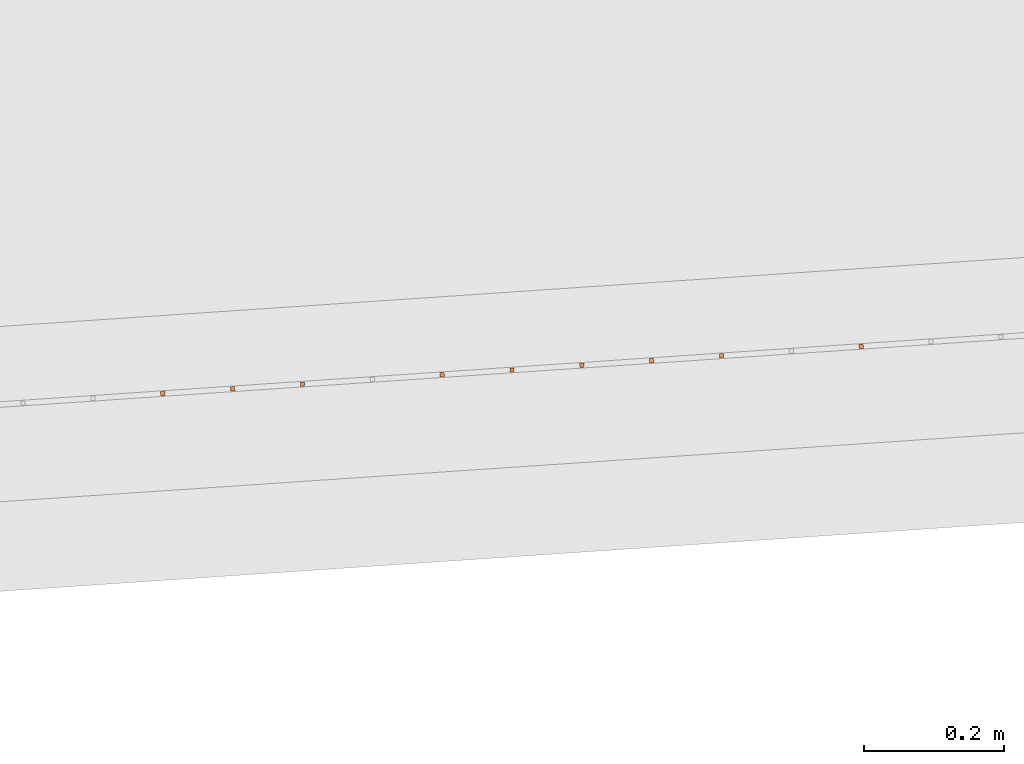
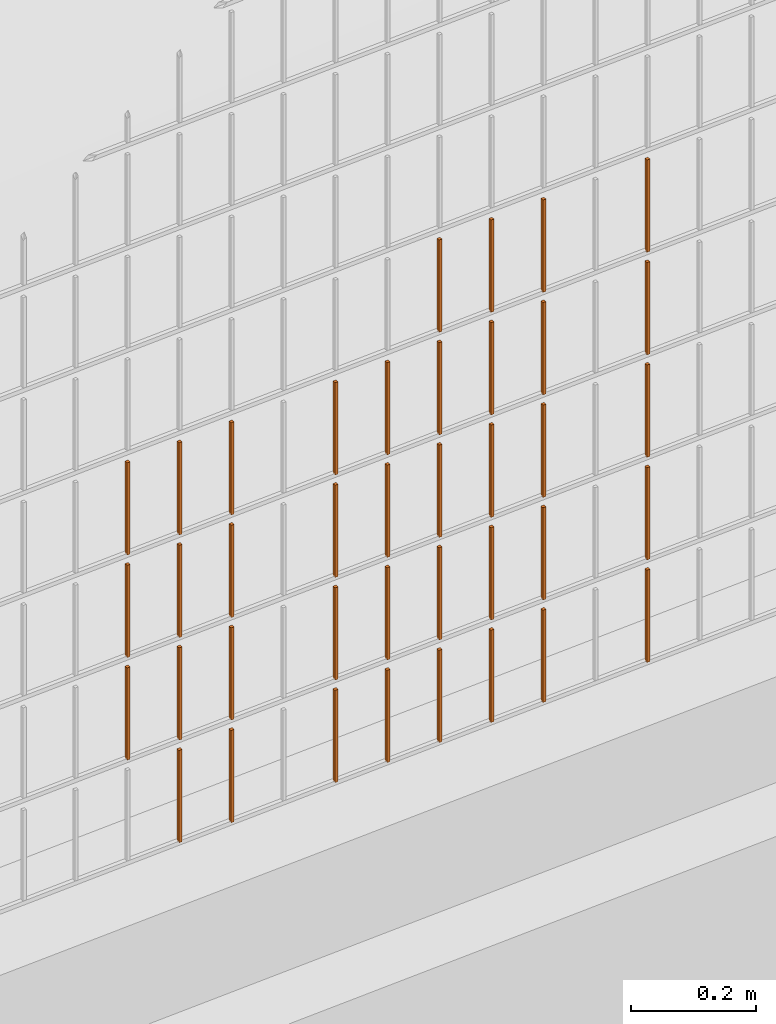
# One storey, part 190 of 1809: 39 proxies, 1 element without a shape of its own.
"""IFC2X3 building model written with IfcOpenShell, lengths in millimetres."""

from ifc_helpers import new_model, entity, si_unit, converted_unit, derived_unit, money_unit, direction, frame, origin_with_axes, place, context, subcontext, project, spatial, faceted_brep, source, transform, mapped, material, type_object, element, aggregate, save


model = new_model("IFC2X3")

# Units and contexts
model_context = context("Model", 3, precision=0.01, world=origin_with_axes(), true_north=direction((0.0, 1.0)))
body_context = subcontext(model_context, "Body", "Model", "MODEL_VIEW")
ifc_project = project(units=[si_unit("LENGTHUNIT", "METRE", prefix="MILLI"), si_unit("AREAUNIT", "SQUARE_METRE"), si_unit("VOLUMEUNIT", "CUBIC_METRE"), converted_unit("PLANEANGLEUNIT", "DEGREE", entity("IfcPlaneAngleMeasure", 0.0174532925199), si_unit("PLANEANGLEUNIT", "RADIAN"), dimensions=[0, 0, 0, 0, 0, 0, 0]), si_unit("SOLIDANGLEUNIT", "STERADIAN"), money_unit("EUR"), converted_unit("TIMEUNIT", "Year", entity("IfcTimeMeasure", 31556926.0), si_unit("TIMEUNIT", "SECOND"), dimensions=[0, 0, 1, 0, 0, 0, 0]), si_unit("MASSUNIT", "GRAM", prefix="KILO"), si_unit("THERMODYNAMICTEMPERATUREUNIT", "DEGREE_CELSIUS"), si_unit("LUMINOUSINTENSITYUNIT", "LUMEN"), si_unit("ENERGYUNIT", "JOULE", prefix="MEGA"), derived_unit("THERMALCONDUCTANCEUNIT", [(si_unit("POWERUNIT", "WATT"), 1), (si_unit("LENGTHUNIT", "METRE"), -1), (si_unit("THERMODYNAMICTEMPERATUREUNIT", "KELVIN"), -1)]), derived_unit("SPECIFICHEATCAPACITYUNIT", [(si_unit("ENERGYUNIT", "JOULE"), 1), (si_unit("MASSUNIT", "GRAM", prefix="KILO"), -1), (si_unit("THERMODYNAMICTEMPERATUREUNIT", "KELVIN"), -1)]), derived_unit("MASSDENSITYUNIT", [(si_unit("MASSUNIT", "GRAM", prefix="KILO"), 1), (si_unit("VOLUMEUNIT", "CUBIC_METRE"), -1)])], contexts=[model_context])

# Site, building, storey
site_placement = place(None, origin_with_axes())
site = spatial("IfcSite", under=ifc_project, at=site_placement, Name="Politse- ja Piirivalveameti ning Päästeameti ühishoone", CompositionType="ELEMENT")
building_placement = place(site_placement, origin_with_axes())
building = spatial("IfcBuilding", under=site, at=building_placement, Name="Politse- ja Piirivalveameti ning Päästeameti ühishoone", CompositionType="ELEMENT")
storey_placement = place(building_placement, origin_with_axes())
storey = spatial("IfcBuildingStorey", under=building, at=storey_placement, Name="Esimene korrus", CompositionType="ELEMENT", Elevation=0.0)

# Proxies
building_element_proxy_type_1 = type_object("IfcBuildingElementProxyType", Name="Railing Type", PredefinedType="NOTDEFINED")
proxy_1_placement = place(storey_placement, frame((89252.001212, -29183.4766571, 203.661247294), z_axis=(0.0, 0.0, 1.0), x_axis=(1.0, 0.0, 0.0)))
proxy_1 = element("IfcBuildingElementProxy", 1, at=proxy_1_placement, inside=storey, type_object=building_element_proxy_type_1, Name="PIIRDEAED")
ifc_material = material(Name="ET-03_Raud")
building_element_proxy_type_2 = type_object("IfcBuildingElementProxyType", Name="IfcBuildingElementProxy", PredefinedType="NOTDEFINED")
shared_shape_1 = source(origin_with_axes(), body_context, "Body", "Brep", [
    faceted_brep([(3.0, 3.0, -0.000752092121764), (-3.0, 3.0, -0.000752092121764), (-3.0, 3.0, 179.99926046), (3.0, 3.0, 179.99926046), (3.0, -3.0, 0.000752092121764), (-3.0, -3.0, 0.000752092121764), (-3.0, -3.0, 180.000764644), (3.0, -3.0, 180.000764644)], [[[0, 1, 2, 3]], [[0, 4, 5, 1]], [[1, 5, 6, 2]], [[3, 2, 6, 7]], [[4, 0, 3, 7]], [[5, 4, 7, 6]]]),
])
proxy_2_placement = place(proxy_1_placement, frame((-68570.4399222, -21929.4492028, 10.004785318), z_axis=(0.0, 0.0, 1.0), x_axis=(1.0, 0.0, 0.0)))
proxy_2 = element("IfcBuildingElementProxy", 2, at=proxy_2_placement, type_object=building_element_proxy_type_2, material=ifc_material, Name="BALUSTER - 001", context=body_context, shape_type="MappedRepresentation", body=[
    mapped(shared_shape_1, transform((0.0, 0.0, 0.0), x_axis=(-0.0673926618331, 0.997726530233, 0.0), y_axis=(-0.997726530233, -0.0673926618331, 0.0), z_axis=(0.0, 0.0, 1.0))),
])
shared_shape_2 = source(origin_with_axes(), body_context, "Body", "Brep", [
    faceted_brep([(3.0, 3.0, -0.000752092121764), (-3.0, 3.0, -0.000752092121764), (-3.0, 3.0, 179.99926046), (3.0, 3.0, 179.99926046), (3.0, -3.0, 0.000752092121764), (-3.0, -3.0, 0.000752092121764), (-3.0, -3.0, 180.000764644), (3.0, -3.0, 180.000764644)], [[[0, 1, 2, 3]], [[0, 4, 5, 1]], [[1, 5, 6, 2]], [[3, 2, 6, 7]], [[4, 0, 3, 7]], [[5, 4, 7, 6]]]),
])
proxy_3_placement = place(proxy_1_placement, frame((-68470.6672692, -21922.7099367, 10.0298550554), z_axis=(0.0, 0.0, 1.0), x_axis=(1.0, 0.0, 0.0)))
proxy_3 = element("IfcBuildingElementProxy", 3, at=proxy_3_placement, type_object=building_element_proxy_type_2, material=ifc_material, Name="BALUSTER - 001", context=body_context, shape_type="MappedRepresentation", body=[
    mapped(shared_shape_2, transform((0.0, 0.0, 0.0), x_axis=(-0.0673926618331, 0.997726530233, 0.0), y_axis=(-0.997726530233, -0.0673926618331, 0.0), z_axis=(0.0, 0.0, 1.0))),
])
proxy_4_placement = place(proxy_1_placement, frame((-68670.2125752, -21936.188469, 9.97971558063), z_axis=(0.0, 0.0, 1.0), x_axis=(1.0, 0.0, 0.0)))
proxy_4 = element("IfcBuildingElementProxy", 4, at=proxy_4_placement, type_object=building_element_proxy_type_2, material=ifc_material, Name="BALUSTER - 001", context=body_context, shape_type="MappedRepresentation", body=[
    mapped(shared_shape_2, transform((0.0, 0.0, 0.0), x_axis=(-0.0673926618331, 0.997726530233, 0.0), y_axis=(-0.997726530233, -0.0673926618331, 0.0), z_axis=(0.0, 0.0, 1.0))),
])
proxy_5_placement = place(proxy_1_placement, frame((-68769.9852282, -21942.9277352, 9.95464584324), z_axis=(0.0, 0.0, 1.0), x_axis=(1.0, 0.0, 0.0)))
proxy_5 = element("IfcBuildingElementProxy", 5, at=proxy_5_placement, type_object=building_element_proxy_type_2, material=ifc_material, Name="BALUSTER - 001", context=body_context, shape_type="MappedRepresentation", body=[
    mapped(shared_shape_2, transform((0.0, 0.0, 0.0), x_axis=(-0.0673926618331, 0.997726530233, 0.0), y_axis=(-0.997726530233, -0.0673926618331, 0.0), z_axis=(0.0, 0.0, 1.0))),
])
proxy_6_placement = place(proxy_1_placement, frame((-68470.6672692, -21922.7099367, 210.029855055), z_axis=(0.0, 0.0, 1.0), x_axis=(1.0, 0.0, 0.0)))
proxy_6 = element("IfcBuildingElementProxy", 6, at=proxy_6_placement, type_object=building_element_proxy_type_2, material=ifc_material, Name="BALUSTER - 001", context=body_context, shape_type="MappedRepresentation", body=[
    mapped(shared_shape_2, transform((0.0, 0.0, 0.0), x_axis=(-0.0673926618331, 0.997726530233, 0.0), y_axis=(-0.997726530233, -0.0673926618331, 0.0), z_axis=(0.0, 0.0, 1.0))),
])
shared_shape_3 = source(origin_with_axes(), body_context, "Body", "Brep", [
    faceted_brep([(3.0, 3.0, -0.000752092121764), (-3.0, 3.0, -0.000752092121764), (-3.0, 3.0, 179.99926046), (3.0, 3.0, 179.99926046), (3.0, -3.0, 0.000752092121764), (-3.0, -3.0, 0.000752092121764), (-3.0, -3.0, 180.000764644), (3.0, -3.0, 180.000764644)], [[[0, 1, 2, 3]], [[0, 4, 5, 1]], [[1, 5, 6, 2]], [[3, 2, 6, 7]], [[4, 0, 3, 7]], [[5, 4, 7, 6]]]),
])
proxy_7_placement = place(proxy_1_placement, frame((-68769.9852282, -21942.9277352, 209.954645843), z_axis=(0.0, 0.0, 1.0), x_axis=(1.0, 0.0, 0.0)))
proxy_7 = element("IfcBuildingElementProxy", 7, at=proxy_7_placement, type_object=building_element_proxy_type_2, material=ifc_material, Name="BALUSTER - 001", context=body_context, shape_type="MappedRepresentation", body=[
    mapped(shared_shape_3, transform((0.0, 0.0, 0.0), x_axis=(-0.0673926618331, 0.997726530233, 0.0), y_axis=(-0.997726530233, -0.0673926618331, 0.0), z_axis=(0.0, 0.0, 1.0))),
])
proxy_8_placement = place(proxy_1_placement, frame((-68670.2125752, -21936.188469, 409.979715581), z_axis=(0.0, 0.0, 1.0), x_axis=(1.0, 0.0, 0.0)))
proxy_8 = element("IfcBuildingElementProxy", 8, at=proxy_8_placement, type_object=building_element_proxy_type_2, material=ifc_material, Name="BALUSTER - 001", context=body_context, shape_type="MappedRepresentation", body=[
    mapped(shared_shape_3, transform((0.0, 0.0, 0.0), x_axis=(-0.0673926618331, 0.997726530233, 0.0), y_axis=(-0.997726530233, -0.0673926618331, 0.0), z_axis=(0.0, 0.0, 1.0))),
])
proxy_9_placement = place(proxy_1_placement, frame((-68769.9852282, -21942.9277352, 409.954645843), z_axis=(0.0, 0.0, 1.0), x_axis=(1.0, 0.0, 0.0)))
proxy_9 = element("IfcBuildingElementProxy", 9, at=proxy_9_placement, type_object=building_element_proxy_type_2, material=ifc_material, Name="BALUSTER - 001", context=body_context, shape_type="MappedRepresentation", body=[
    mapped(shared_shape_3, transform((0.0, 0.0, 0.0), x_axis=(-0.0673926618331, 0.997726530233, 0.0), y_axis=(-0.997726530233, -0.0673926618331, 0.0), z_axis=(0.0, 0.0, 1.0))),
])
proxy_10_placement = place(proxy_1_placement, frame((-68670.2125752, -21936.188469, 609.979715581), z_axis=(0.0, 0.0, 1.0), x_axis=(1.0, 0.0, 0.0)))
proxy_10 = element("IfcBuildingElementProxy", 10, at=proxy_10_placement, type_object=building_element_proxy_type_2, material=ifc_material, Name="BALUSTER - 001", context=body_context, shape_type="MappedRepresentation", body=[
    mapped(shared_shape_3, transform((0.0, 0.0, 0.0), x_axis=(-0.0673926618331, 0.997726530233, 0.0), y_axis=(-0.997726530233, -0.0673926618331, 0.0), z_axis=(0.0, 0.0, 1.0))),
])
proxy_11_placement = place(proxy_1_placement, frame((-68769.9852282, -21942.9277352, 609.954645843), z_axis=(0.0, 0.0, 1.0), x_axis=(1.0, 0.0, 0.0)))
proxy_11 = element("IfcBuildingElementProxy", 11, at=proxy_11_placement, type_object=building_element_proxy_type_2, material=ifc_material, Name="BALUSTER - 001", context=body_context, shape_type="MappedRepresentation", body=[
    mapped(shared_shape_3, transform((0.0, 0.0, 0.0), x_axis=(-0.0673926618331, 0.997726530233, 0.0), y_axis=(-0.997726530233, -0.0673926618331, 0.0), z_axis=(0.0, 0.0, 1.0))),
])
shared_shape_4 = source(origin_with_axes(), body_context, "Body", "Brep", [
    faceted_brep([(3.0, 3.0, -0.000752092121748), (-3.0, 3.0, -0.00075209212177), (-3.0, 3.0, 179.99926046), (3.0, 3.0, 179.99926046), (3.0, -3.0, 0.00075209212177), (-3.0, -3.0, 0.000752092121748), (-3.0, -3.0, 180.000764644), (3.0, -3.0, 180.000764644)], [[[0, 1, 2, 3]], [[0, 4, 5, 1]], [[1, 5, 6, 2]], [[3, 2, 6, 7]], [[4, 0, 3, 7]], [[5, 4, 7, 6]]]),
])
proxy_12_placement = place(proxy_1_placement, frame((-68370.8946162, -21915.9706705, 210.054924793), z_axis=(0.0, 0.0, 1.0), x_axis=(1.0, 0.0, 0.0)))
proxy_12 = element("IfcBuildingElementProxy", 12, at=proxy_12_placement, type_object=building_element_proxy_type_2, material=ifc_material, Name="BALUSTER - 001", context=body_context, shape_type="MappedRepresentation", body=[
    mapped(shared_shape_4, transform((0.0, 0.0, 0.0), x_axis=(-0.0673926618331, 0.997726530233, 0.0), y_axis=(-0.997726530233, -0.0673926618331, 0.0), z_axis=(0.0, 0.0, 1.0))),
])
proxy_13_placement = place(proxy_1_placement, frame((-68969.5305343, -21956.4062676, 209.904506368), z_axis=(0.0, 0.0, 1.0), x_axis=(1.0, 0.0, 0.0)))
proxy_13 = element("IfcBuildingElementProxy", 13, at=proxy_13_placement, type_object=building_element_proxy_type_2, material=ifc_material, Name="BALUSTER - 001", context=body_context, shape_type="MappedRepresentation", body=[
    mapped(shared_shape_4, transform((0.0, 0.0, 0.0), x_axis=(-0.0673926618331, 0.997726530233, 0.0), y_axis=(-0.997726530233, -0.0673926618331, 0.0), z_axis=(0.0, 0.0, 1.0))),
])
shared_shape_5 = source(origin_with_axes(), body_context, "Body", "Brep", [
    faceted_brep([(3.0, 3.0, -0.000752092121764), (-3.0, 3.0, -0.000752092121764), (-3.0, 3.0, 179.99926046), (3.0, 3.0, 179.99926046), (3.0, -3.0, 0.000752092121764), (-3.0, -3.0, 0.000752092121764), (-3.0, -3.0, 180.000764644), (3.0, -3.0, 180.000764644)], [[[0, 1, 2, 3]], [[0, 4, 5, 1]], [[1, 5, 6, 2]], [[3, 2, 6, 7]], [[4, 0, 3, 7]], [[5, 4, 7, 6]]]),
])
proxy_14_placement = place(proxy_1_placement, frame((-68570.4399222, -21929.4492028, 210.004785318), z_axis=(0.0, 0.0, 1.0), x_axis=(1.0, 0.0, 0.0)))
proxy_14 = element("IfcBuildingElementProxy", 14, at=proxy_14_placement, type_object=building_element_proxy_type_2, material=ifc_material, Name="BALUSTER - 001", context=body_context, shape_type="MappedRepresentation", body=[
    mapped(shared_shape_5, transform((0.0, 0.0, 0.0), x_axis=(-0.0673926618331, 0.997726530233, 0.0), y_axis=(-0.997726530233, -0.0673926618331, 0.0), z_axis=(0.0, 0.0, 1.0))),
])
proxy_15_placement = place(proxy_1_placement, frame((-68570.4399222, -21929.4492028, 410.004785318), z_axis=(0.0, 0.0, 1.0), x_axis=(1.0, 0.0, 0.0)))
proxy_15 = element("IfcBuildingElementProxy", 15, at=proxy_15_placement, type_object=building_element_proxy_type_2, material=ifc_material, Name="BALUSTER - 001", context=body_context, shape_type="MappedRepresentation", body=[
    mapped(shared_shape_5, transform((0.0, 0.0, 0.0), x_axis=(-0.0673926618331, 0.997726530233, 0.0), y_axis=(-0.997726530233, -0.0673926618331, 0.0), z_axis=(0.0, 0.0, 1.0))),
])
shared_shape_6 = source(origin_with_axes(), body_context, "Body", "Brep", [
    faceted_brep([(3.0, 3.0, -0.000752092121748), (-3.0, 3.0, -0.00075209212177), (-3.0, 3.0, 179.99926046), (3.0, 3.0, 179.99926046), (3.0, -3.0, 0.00075209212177), (-3.0, -3.0, 0.000752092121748), (-3.0, -3.0, 180.000764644), (3.0, -3.0, 180.000764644)], [[[0, 1, 2, 3]], [[0, 4, 5, 1]], [[1, 5, 6, 2]], [[3, 2, 6, 7]], [[4, 0, 3, 7]], [[5, 4, 7, 6]]]),
])
proxy_16_placement = place(proxy_1_placement, frame((-68370.8946162, -21915.9706705, 410.054924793), z_axis=(0.0, 0.0, 1.0), x_axis=(1.0, 0.0, 0.0)))
proxy_16 = element("IfcBuildingElementProxy", 16, at=proxy_16_placement, type_object=building_element_proxy_type_2, material=ifc_material, Name="BALUSTER - 001", context=body_context, shape_type="MappedRepresentation", body=[
    mapped(shared_shape_6, transform((0.0, 0.0, 0.0), x_axis=(-0.0673926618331, 0.997726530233, 0.0), y_axis=(-0.997726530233, -0.0673926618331, 0.0), z_axis=(0.0, 0.0, 1.0))),
])
proxy_17_placement = place(proxy_1_placement, frame((-68969.5305343, -21956.4062676, 409.904506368), z_axis=(0.0, 0.0, 1.0), x_axis=(1.0, 0.0, 0.0)))
proxy_17 = element("IfcBuildingElementProxy", 17, at=proxy_17_placement, type_object=building_element_proxy_type_2, material=ifc_material, Name="BALUSTER - 001", context=body_context, shape_type="MappedRepresentation", body=[
    mapped(shared_shape_6, transform((0.0, 0.0, 0.0), x_axis=(-0.0673926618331, 0.997726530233, 0.0), y_axis=(-0.997726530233, -0.0673926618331, 0.0), z_axis=(0.0, 0.0, 1.0))),
])
proxy_18_placement = place(proxy_1_placement, frame((-68370.8946162, -21915.9706705, 610.054924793), z_axis=(0.0, 0.0, 1.0), x_axis=(1.0, 0.0, 0.0)))
proxy_18 = element("IfcBuildingElementProxy", 18, at=proxy_18_placement, type_object=building_element_proxy_type_2, material=ifc_material, Name="BALUSTER - 001", context=body_context, shape_type="MappedRepresentation", body=[
    mapped(shared_shape_6, transform((0.0, 0.0, 0.0), x_axis=(-0.0673926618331, 0.997726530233, 0.0), y_axis=(-0.997726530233, -0.0673926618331, 0.0), z_axis=(0.0, 0.0, 1.0))),
])
shared_shape_7 = source(origin_with_axes(), body_context, "Body", "Brep", [
    faceted_brep([(3.0, 3.0, -0.000752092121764), (-3.0, 3.0, -0.000752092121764), (-3.0, 3.0, 179.99926046), (3.0, 3.0, 179.99926046), (3.0, -3.0, 0.000752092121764), (-3.0, -3.0, 0.000752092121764), (-3.0, -3.0, 180.000764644), (3.0, -3.0, 180.000764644)], [[[0, 1, 2, 3]], [[0, 4, 5, 1]], [[1, 5, 6, 2]], [[3, 2, 6, 7]], [[4, 0, 3, 7]], [[5, 4, 7, 6]]]),
])
proxy_19_placement = place(proxy_1_placement, frame((-68670.2125752, -21936.188469, 209.979715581), z_axis=(0.0, 0.0, 1.0), x_axis=(1.0, 0.0, 0.0)))
proxy_19 = element("IfcBuildingElementProxy", 19, at=proxy_19_placement, type_object=building_element_proxy_type_2, material=ifc_material, Name="BALUSTER - 001", context=body_context, shape_type="MappedRepresentation", body=[
    mapped(shared_shape_7, transform((0.0, 0.0, 0.0), x_axis=(-0.0673926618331, 0.997726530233, 0.0), y_axis=(-0.997726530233, -0.0673926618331, 0.0), z_axis=(0.0, 0.0, 1.0))),
])
proxy_20_placement = place(proxy_1_placement, frame((-68470.6672692, -21922.7099367, 410.029855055), z_axis=(0.0, 0.0, 1.0), x_axis=(1.0, 0.0, 0.0)))
proxy_20 = element("IfcBuildingElementProxy", 20, at=proxy_20_placement, type_object=building_element_proxy_type_2, material=ifc_material, Name="BALUSTER - 001", context=body_context, shape_type="MappedRepresentation", body=[
    mapped(shared_shape_7, transform((0.0, 0.0, 0.0), x_axis=(-0.0673926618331, 0.997726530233, 0.0), y_axis=(-0.997726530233, -0.0673926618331, 0.0), z_axis=(0.0, 0.0, 1.0))),
])
shared_shape_8 = source(origin_with_axes(), body_context, "Body", "Brep", [
    faceted_brep([(3.0, 3.0, -0.000752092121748), (-3.0, 3.0, -0.00075209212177), (-3.0, 3.0, 179.99926046), (3.0, 3.0, 179.99926046), (3.0, -3.0, 0.00075209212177), (-3.0, -3.0, 0.000752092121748), (-3.0, -3.0, 180.000764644), (3.0, -3.0, 180.000764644)], [[[0, 1, 2, 3]], [[0, 4, 5, 1]], [[1, 5, 6, 2]], [[3, 2, 6, 7]], [[4, 0, 3, 7]], [[5, 4, 7, 6]]]),
])
proxy_21_placement = place(proxy_1_placement, frame((-68969.5305343, -21956.4062676, 609.904506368), z_axis=(0.0, 0.0, 1.0), x_axis=(1.0, 0.0, 0.0)))
proxy_21 = element("IfcBuildingElementProxy", 21, at=proxy_21_placement, type_object=building_element_proxy_type_2, material=ifc_material, Name="BALUSTER - 001", context=body_context, shape_type="MappedRepresentation", body=[
    mapped(shared_shape_8, transform((0.0, 0.0, 0.0), x_axis=(-0.0673926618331, 0.997726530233, 0.0), y_axis=(-0.997726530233, -0.0673926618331, 0.0), z_axis=(0.0, 0.0, 1.0))),
])
shared_shape_9 = source(origin_with_axes(), body_context, "Body", "Brep", [
    faceted_brep([(3.0, 3.0, -0.000752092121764), (-3.0, 3.0, -0.000752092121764), (-3.0, 3.0, 179.99926046), (3.0, 3.0, 179.99926046), (3.0, -3.0, 0.000752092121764), (-3.0, -3.0, 0.000752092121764), (-3.0, -3.0, 180.000764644), (3.0, -3.0, 180.000764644)], [[[0, 1, 2, 3]], [[0, 4, 5, 1]], [[1, 5, 6, 2]], [[3, 2, 6, 7]], [[4, 0, 3, 7]], [[5, 4, 7, 6]]]),
])
proxy_22_placement = place(proxy_1_placement, frame((-68470.6672692, -21922.7099367, 610.029855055), z_axis=(0.0, 0.0, 1.0), x_axis=(1.0, 0.0, 0.0)))
proxy_22 = element("IfcBuildingElementProxy", 22, at=proxy_22_placement, type_object=building_element_proxy_type_2, material=ifc_material, Name="BALUSTER - 001", context=body_context, shape_type="MappedRepresentation", body=[
    mapped(shared_shape_9, transform((0.0, 0.0, 0.0), x_axis=(-0.0673926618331, 0.997726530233, 0.0), y_axis=(-0.997726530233, -0.0673926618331, 0.0), z_axis=(0.0, 0.0, 1.0))),
])
shared_shape_10 = source(origin_with_axes(), body_context, "Body", "Brep", [
    faceted_brep([(3.0, 3.0, -0.000752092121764), (-3.0, 3.0, -0.000752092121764), (-3.0, 3.0, 179.99926046), (3.0, 3.0, 179.99926046), (3.0, -3.0, 0.000752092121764), (-3.0, -3.0, 0.000752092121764), (-3.0, -3.0, 180.000764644), (3.0, -3.0, 180.000764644)], [[[0, 1, 2, 3]], [[0, 4, 5, 1]], [[1, 5, 6, 2]], [[3, 2, 6, 7]], [[4, 0, 3, 7]], [[5, 4, 7, 6]]]),
])
proxy_23_placement = place(proxy_1_placement, frame((-68570.4399222, -21929.4492028, 810.004785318), z_axis=(0.0, 0.0, 1.0), x_axis=(1.0, 0.0, 0.0)))
proxy_23 = element("IfcBuildingElementProxy", 23, at=proxy_23_placement, type_object=building_element_proxy_type_2, material=ifc_material, Name="BALUSTER - 001", context=body_context, shape_type="MappedRepresentation", body=[
    mapped(shared_shape_10, transform((0.0, 0.0, 0.0), x_axis=(-0.0673926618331, 0.997726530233, 0.0), y_axis=(-0.997726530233, -0.0673926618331, 0.0), z_axis=(0.0, 0.0, 1.0))),
])
shared_shape_11 = source(origin_with_axes(), body_context, "Body", "Brep", [
    faceted_brep([(3.0, 3.0, -0.000752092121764), (-3.0, 3.0, -0.000752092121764), (-3.0, 3.0, 179.99926046), (3.0, 3.0, 179.99926046), (3.0, -3.0, 0.000752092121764), (-3.0, -3.0, 0.000752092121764), (-3.0, -3.0, 180.000764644), (3.0, -3.0, 180.000764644)], [[[0, 1, 2, 3]], [[0, 4, 5, 1]], [[1, 5, 6, 2]], [[3, 2, 6, 7]], [[4, 0, 3, 7]], [[5, 4, 7, 6]]]),
])
proxy_24_placement = place(proxy_1_placement, frame((-68470.6672692, -21922.7099367, 810.029855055), z_axis=(0.0, 0.0, 1.0), x_axis=(1.0, 0.0, 0.0)))
proxy_24 = element("IfcBuildingElementProxy", 24, at=proxy_24_placement, type_object=building_element_proxy_type_2, material=ifc_material, Name="BALUSTER - 001", context=body_context, shape_type="MappedRepresentation", body=[
    mapped(shared_shape_11, transform((0.0, 0.0, 0.0), x_axis=(-0.0673926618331, 0.997726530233, 0.0), y_axis=(-0.997726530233, -0.0673926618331, 0.0), z_axis=(0.0, 0.0, 1.0))),
])
shared_shape_12 = source(origin_with_axes(), body_context, "Body", "Brep", [
    faceted_brep([(3.0, 3.0, -0.000752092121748), (-3.0, 3.0, -0.00075209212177), (-3.0, 3.0, 179.99926046), (3.0, 3.0, 179.99926046), (3.0, -3.0, 0.00075209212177), (-3.0, -3.0, 0.000752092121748), (-3.0, -3.0, 180.000764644), (3.0, -3.0, 180.000764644)], [[[0, 1, 2, 3]], [[0, 4, 5, 1]], [[1, 5, 6, 2]], [[3, 2, 6, 7]], [[4, 0, 3, 7]], [[5, 4, 7, 6]]]),
])
proxy_25_placement = place(proxy_1_placement, frame((-68370.8946162, -21915.9706705, 810.054924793), z_axis=(0.0, 0.0, 1.0), x_axis=(1.0, 0.0, 0.0)))
proxy_25 = element("IfcBuildingElementProxy", 25, at=proxy_25_placement, type_object=building_element_proxy_type_2, material=ifc_material, Name="BALUSTER - 001", context=body_context, shape_type="MappedRepresentation", body=[
    mapped(shared_shape_12, transform((0.0, 0.0, 0.0), x_axis=(-0.0673926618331, 0.997726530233, 0.0), y_axis=(-0.997726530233, -0.0673926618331, 0.0), z_axis=(0.0, 0.0, 1.0))),
])
shared_shape_13 = source(origin_with_axes(), body_context, "Body", "Brep", [
    faceted_brep([(3.0, 3.0, -0.000752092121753), (-3.0, 3.0, -0.000752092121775), (-3.0, 3.0, 179.99926046), (3.0, 3.0, 179.99926046), (3.0, -3.0, 0.000752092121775), (-3.0, -3.0, 0.000752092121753), (-3.0, -3.0, 180.000764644), (3.0, -3.0, 180.000764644)], [[[0, 1, 2, 3]], [[0, 4, 5, 1]], [[1, 5, 6, 2]], [[3, 2, 6, 7]], [[4, 0, 3, 7]], [[5, 4, 7, 6]]]),
])
proxy_26_placement = place(proxy_1_placement, frame((-69169.0758403, -21969.8847999, 609.854366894), z_axis=(0.0, 0.0, 1.0), x_axis=(1.0, 0.0, 0.0)))
proxy_26 = element("IfcBuildingElementProxy", 26, at=proxy_26_placement, type_object=building_element_proxy_type_2, material=ifc_material, Name="BALUSTER - 001", context=body_context, shape_type="MappedRepresentation", body=[
    mapped(shared_shape_13, transform((0.0, 0.0, 0.0), x_axis=(-0.0673926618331, 0.997726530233, 0.0), y_axis=(-0.997726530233, -0.0673926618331, 0.0), z_axis=(0.0, 0.0, 1.0))),
])
shared_shape_14 = source(origin_with_axes(), body_context, "Body", "Brep", [
    faceted_brep([(3.0, 3.0, -0.000752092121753), (-3.0, 3.0, -0.000752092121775), (-3.0, 3.0, 179.99926046), (3.0, 3.0, 179.99926046), (3.0, -3.0, 0.000752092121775), (-3.0, -3.0, 0.000752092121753), (-3.0, -3.0, 180.000764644), (3.0, -3.0, 180.000764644)], [[[0, 1, 2, 3]], [[0, 4, 5, 1]], [[1, 5, 6, 2]], [[3, 2, 6, 7]], [[4, 0, 3, 7]], [[5, 4, 7, 6]]]),
])
proxy_27_placement = place(proxy_1_placement, frame((-68171.3493101, -21902.4921381, 810.105064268), z_axis=(0.0, 0.0, 1.0), x_axis=(1.0, 0.0, 0.0)))
proxy_27 = element("IfcBuildingElementProxy", 27, at=proxy_27_placement, type_object=building_element_proxy_type_2, material=ifc_material, Name="BALUSTER - 001", context=body_context, shape_type="MappedRepresentation", body=[
    mapped(shared_shape_14, transform((0.0, 0.0, 0.0), x_axis=(-0.0673926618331, 0.997726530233, 0.0), y_axis=(-0.997726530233, -0.0673926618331, 0.0), z_axis=(0.0, 0.0, 1.0))),
])
shared_shape_15 = source(origin_with_axes(), body_context, "Body", "Brep", [
    faceted_brep([(3.0, 3.0, -0.000752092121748), (-3.0, 3.0, -0.00075209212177), (-3.0, 3.0, 179.99926046), (3.0, 3.0, 179.99926046), (3.0, -3.0, 0.00075209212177), (-3.0, -3.0, 0.000752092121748), (-3.0, -3.0, 180.000764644), (3.0, -3.0, 180.000764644)], [[[0, 1, 2, 3]], [[0, 4, 5, 1]], [[1, 5, 6, 2]], [[3, 2, 6, 7]], [[4, 0, 3, 7]], [[5, 4, 7, 6]]]),
])
proxy_28_placement = place(proxy_1_placement, frame((-68370.8946162, -21915.9706705, 10.0549247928), z_axis=(0.0, 0.0, 1.0), x_axis=(1.0, 0.0, 0.0)))
proxy_28 = element("IfcBuildingElementProxy", 28, at=proxy_28_placement, type_object=building_element_proxy_type_2, material=ifc_material, Name="BALUSTER - 001", context=body_context, shape_type="MappedRepresentation", body=[
    mapped(shared_shape_15, transform((0.0, 0.0, 0.0), x_axis=(-0.0673926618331, 0.997726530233, 0.0), y_axis=(-0.997726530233, -0.0673926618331, 0.0), z_axis=(0.0, 0.0, 1.0))),
])
proxy_29_placement = place(proxy_1_placement, frame((-68969.5305343, -21956.4062676, 9.90450636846), z_axis=(0.0, 0.0, 1.0), x_axis=(1.0, 0.0, 0.0)))
proxy_29 = element("IfcBuildingElementProxy", 29, at=proxy_29_placement, type_object=building_element_proxy_type_2, material=ifc_material, Name="BALUSTER - 001", context=body_context, shape_type="MappedRepresentation", body=[
    mapped(shared_shape_15, transform((0.0, 0.0, 0.0), x_axis=(-0.0673926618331, 0.997726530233, 0.0), y_axis=(-0.997726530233, -0.0673926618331, 0.0), z_axis=(0.0, 0.0, 1.0))),
])
shared_shape_16 = source(origin_with_axes(), body_context, "Body", "Brep", [
    faceted_brep([(3.0, 3.0, -0.000752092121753), (-3.0, 3.0, -0.000752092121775), (-3.0, 3.0, 179.99926046), (3.0, 3.0, 179.99926046), (3.0, -3.0, 0.000752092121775), (-3.0, -3.0, 0.000752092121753), (-3.0, -3.0, 180.000764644), (3.0, -3.0, 180.000764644)], [[[0, 1, 2, 3]], [[0, 4, 5, 1]], [[1, 5, 6, 2]], [[3, 2, 6, 7]], [[4, 0, 3, 7]], [[5, 4, 7, 6]]]),
])
proxy_30_placement = place(proxy_1_placement, frame((-69069.3031873, -21963.1455338, 9.87943663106), z_axis=(0.0, 0.0, 1.0), x_axis=(1.0, 0.0, 0.0)))
proxy_30 = element("IfcBuildingElementProxy", 30, at=proxy_30_placement, type_object=building_element_proxy_type_2, material=ifc_material, Name="BALUSTER - 001", context=body_context, shape_type="MappedRepresentation", body=[
    mapped(shared_shape_16, transform((0.0, 0.0, 0.0), x_axis=(-0.0673926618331, 0.997726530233, 0.0), y_axis=(-0.997726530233, -0.0673926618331, 0.0), z_axis=(0.0, 0.0, 1.0))),
])
proxy_31_placement = place(proxy_1_placement, frame((-69069.3031873, -21963.1455338, 209.879436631), z_axis=(0.0, 0.0, 1.0), x_axis=(1.0, 0.0, 0.0)))
proxy_31 = element("IfcBuildingElementProxy", 31, at=proxy_31_placement, type_object=building_element_proxy_type_2, material=ifc_material, Name="BALUSTER - 001", context=body_context, shape_type="MappedRepresentation", body=[
    mapped(shared_shape_16, transform((0.0, 0.0, 0.0), x_axis=(-0.0673926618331, 0.997726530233, 0.0), y_axis=(-0.997726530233, -0.0673926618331, 0.0), z_axis=(0.0, 0.0, 1.0))),
])
shared_shape_17 = source(origin_with_axes(), body_context, "Body", "Brep", [
    faceted_brep([(3.0, 3.0, -0.000752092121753), (-3.0, 3.0, -0.000752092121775), (-3.0, 3.0, 179.99926046), (3.0, 3.0, 179.99926046), (3.0, -3.0, 0.000752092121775), (-3.0, -3.0, 0.000752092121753), (-3.0, -3.0, 180.000764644), (3.0, -3.0, 180.000764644)], [[[0, 1, 2, 3]], [[0, 4, 5, 1]], [[1, 5, 6, 2]], [[3, 2, 6, 7]], [[4, 0, 3, 7]], [[5, 4, 7, 6]]]),
])
proxy_32_placement = place(proxy_1_placement, frame((-68171.3493101, -21902.4921381, 10.1050642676), z_axis=(0.0, 0.0, 1.0), x_axis=(1.0, 0.0, 0.0)))
proxy_32 = element("IfcBuildingElementProxy", 32, at=proxy_32_placement, type_object=building_element_proxy_type_2, material=ifc_material, Name="BALUSTER - 001", context=body_context, shape_type="MappedRepresentation", body=[
    mapped(shared_shape_17, transform((0.0, 0.0, 0.0), x_axis=(-0.0673926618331, 0.997726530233, 0.0), y_axis=(-0.997726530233, -0.0673926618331, 0.0), z_axis=(0.0, 0.0, 1.0))),
])
shared_shape_18 = source(origin_with_axes(), body_context, "Body", "Brep", [
    faceted_brep([(3.0, 3.0, -0.000752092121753), (-3.0, 3.0, -0.000752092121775), (-3.0, 3.0, 179.99926046), (3.0, 3.0, 179.99926046), (3.0, -3.0, 0.000752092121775), (-3.0, -3.0, 0.000752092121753), (-3.0, -3.0, 180.000764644), (3.0, -3.0, 180.000764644)], [[[0, 1, 2, 3]], [[0, 4, 5, 1]], [[1, 5, 6, 2]], [[3, 2, 6, 7]], [[4, 0, 3, 7]], [[5, 4, 7, 6]]]),
])
proxy_33_placement = place(proxy_1_placement, frame((-68171.3493101, -21902.4921381, 410.105064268), z_axis=(0.0, 0.0, 1.0), x_axis=(1.0, 0.0, 0.0)))
proxy_33 = element("IfcBuildingElementProxy", 33, at=proxy_33_placement, type_object=building_element_proxy_type_2, material=ifc_material, Name="BALUSTER - 001", context=body_context, shape_type="MappedRepresentation", body=[
    mapped(shared_shape_18, transform((0.0, 0.0, 0.0), x_axis=(-0.0673926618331, 0.997726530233, 0.0), y_axis=(-0.997726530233, -0.0673926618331, 0.0), z_axis=(0.0, 0.0, 1.0))),
])
proxy_34_placement = place(proxy_1_placement, frame((-69169.0758403, -21969.8847999, 409.854366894), z_axis=(0.0, 0.0, 1.0), x_axis=(1.0, 0.0, 0.0)))
proxy_34 = element("IfcBuildingElementProxy", 34, at=proxy_34_placement, type_object=building_element_proxy_type_2, material=ifc_material, Name="BALUSTER - 001", context=body_context, shape_type="MappedRepresentation", body=[
    mapped(shared_shape_18, transform((0.0, 0.0, 0.0), x_axis=(-0.0673926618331, 0.997726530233, 0.0), y_axis=(-0.997726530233, -0.0673926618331, 0.0), z_axis=(0.0, 0.0, 1.0))),
])
shared_shape_19 = source(origin_with_axes(), body_context, "Body", "Brep", [
    faceted_brep([(3.0, 3.0, -0.000752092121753), (-3.0, 3.0, -0.000752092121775), (-3.0, 3.0, 179.99926046), (3.0, 3.0, 179.99926046), (3.0, -3.0, 0.000752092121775), (-3.0, -3.0, 0.000752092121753), (-3.0, -3.0, 180.000764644), (3.0, -3.0, 180.000764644)], [[[0, 1, 2, 3]], [[0, 4, 5, 1]], [[1, 5, 6, 2]], [[3, 2, 6, 7]], [[4, 0, 3, 7]], [[5, 4, 7, 6]]]),
])
proxy_35_placement = place(proxy_1_placement, frame((-68171.3493101, -21902.4921381, 210.105064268), z_axis=(0.0, 0.0, 1.0), x_axis=(1.0, 0.0, 0.0)))
proxy_35 = element("IfcBuildingElementProxy", 35, at=proxy_35_placement, type_object=building_element_proxy_type_2, material=ifc_material, Name="BALUSTER - 001", context=body_context, shape_type="MappedRepresentation", body=[
    mapped(shared_shape_19, transform((0.0, 0.0, 0.0), x_axis=(-0.0673926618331, 0.997726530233, 0.0), y_axis=(-0.997726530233, -0.0673926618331, 0.0), z_axis=(0.0, 0.0, 1.0))),
])
proxy_36_placement = place(proxy_1_placement, frame((-69169.0758403, -21969.8847999, 209.854366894), z_axis=(0.0, 0.0, 1.0), x_axis=(1.0, 0.0, 0.0)))
proxy_36 = element("IfcBuildingElementProxy", 36, at=proxy_36_placement, type_object=building_element_proxy_type_2, material=ifc_material, Name="BALUSTER - 001", context=body_context, shape_type="MappedRepresentation", body=[
    mapped(shared_shape_19, transform((0.0, 0.0, 0.0), x_axis=(-0.0673926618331, 0.997726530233, 0.0), y_axis=(-0.997726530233, -0.0673926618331, 0.0), z_axis=(0.0, 0.0, 1.0))),
])
proxy_37_placement = place(proxy_1_placement, frame((-69069.3031873, -21963.1455338, 409.879436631), z_axis=(0.0, 0.0, 1.0), x_axis=(1.0, 0.0, 0.0)))
proxy_37 = element("IfcBuildingElementProxy", 37, at=proxy_37_placement, type_object=building_element_proxy_type_2, material=ifc_material, Name="BALUSTER - 001", context=body_context, shape_type="MappedRepresentation", body=[
    mapped(shared_shape_19, transform((0.0, 0.0, 0.0), x_axis=(-0.0673926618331, 0.997726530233, 0.0), y_axis=(-0.997726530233, -0.0673926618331, 0.0), z_axis=(0.0, 0.0, 1.0))),
])
proxy_38_placement = place(proxy_1_placement, frame((-68171.3493101, -21902.4921381, 610.105064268), z_axis=(0.0, 0.0, 1.0), x_axis=(1.0, 0.0, 0.0)))
proxy_38 = element("IfcBuildingElementProxy", 38, at=proxy_38_placement, type_object=building_element_proxy_type_2, material=ifc_material, Name="BALUSTER - 001", context=body_context, shape_type="MappedRepresentation", body=[
    mapped(shared_shape_19, transform((0.0, 0.0, 0.0), x_axis=(-0.0673926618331, 0.997726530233, 0.0), y_axis=(-0.997726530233, -0.0673926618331, 0.0), z_axis=(0.0, 0.0, 1.0))),
])
shared_shape_20 = source(origin_with_axes(), body_context, "Body", "Brep", [
    faceted_brep([(3.0, 3.0, -0.000752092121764), (-3.0, 3.0, -0.000752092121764), (-3.0, 3.0, 179.99926046), (3.0, 3.0, 179.99926046), (3.0, -3.0, 0.000752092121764), (-3.0, -3.0, 0.000752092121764), (-3.0, -3.0, 180.000764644), (3.0, -3.0, 180.000764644)], [[[0, 1, 2, 3]], [[0, 4, 5, 1]], [[1, 5, 6, 2]], [[3, 2, 6, 7]], [[4, 0, 3, 7]], [[5, 4, 7, 6]]]),
])
proxy_39_placement = place(proxy_1_placement, frame((-68570.4399222, -21929.4492028, 610.004785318), z_axis=(0.0, 0.0, 1.0), x_axis=(1.0, 0.0, 0.0)))
proxy_39 = element("IfcBuildingElementProxy", 39, at=proxy_39_placement, type_object=building_element_proxy_type_2, material=ifc_material, Name="BALUSTER - 001", context=body_context, shape_type="MappedRepresentation", body=[
    mapped(shared_shape_20, transform((0.0, 0.0, 0.0), x_axis=(-0.0673926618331, 0.997726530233, 0.0), y_axis=(-0.997726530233, -0.0673926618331, 0.0), z_axis=(0.0, 0.0, 1.0))),
])
shared_shape_21 = source(origin_with_axes(), body_context, "Body", "Brep", [
    faceted_brep([(3.0, 3.0, -0.000752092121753), (-3.0, 3.0, -0.000752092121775), (-3.0, 3.0, 179.99926046), (3.0, 3.0, 179.99926046), (3.0, -3.0, 0.000752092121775), (-3.0, -3.0, 0.000752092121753), (-3.0, -3.0, 180.000764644), (3.0, -3.0, 180.000764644)], [[[0, 1, 2, 3]], [[0, 4, 5, 1]], [[1, 5, 6, 2]], [[3, 2, 6, 7]], [[4, 0, 3, 7]], [[5, 4, 7, 6]]]),
])
proxy_40_placement = place(proxy_1_placement, frame((-69069.3031873, -21963.1455338, 609.879436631), z_axis=(0.0, 0.0, 1.0), x_axis=(1.0, 0.0, 0.0)))
proxy_40 = element("IfcBuildingElementProxy", 40, at=proxy_40_placement, type_object=building_element_proxy_type_2, material=ifc_material, Name="BALUSTER - 001", context=body_context, shape_type="MappedRepresentation", body=[
    mapped(shared_shape_21, transform((0.0, 0.0, 0.0), x_axis=(-0.0673926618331, 0.997726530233, 0.0), y_axis=(-0.997726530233, -0.0673926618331, 0.0), z_axis=(0.0, 0.0, 1.0))),
])
aggregate(proxy_1, [proxy_32, proxy_28, proxy_3, proxy_2, proxy_4, proxy_5, proxy_29, proxy_30, proxy_35, proxy_12, proxy_6, proxy_14, proxy_19, proxy_7, proxy_13, proxy_31, proxy_36, proxy_33, proxy_16, proxy_20, proxy_15, proxy_8, proxy_9, proxy_17, proxy_37, proxy_34, proxy_38, proxy_18, proxy_22, proxy_39, proxy_10, proxy_11, proxy_21, proxy_40, proxy_26, proxy_27, proxy_25, proxy_24, proxy_23])

save(model, "model.ifc")
